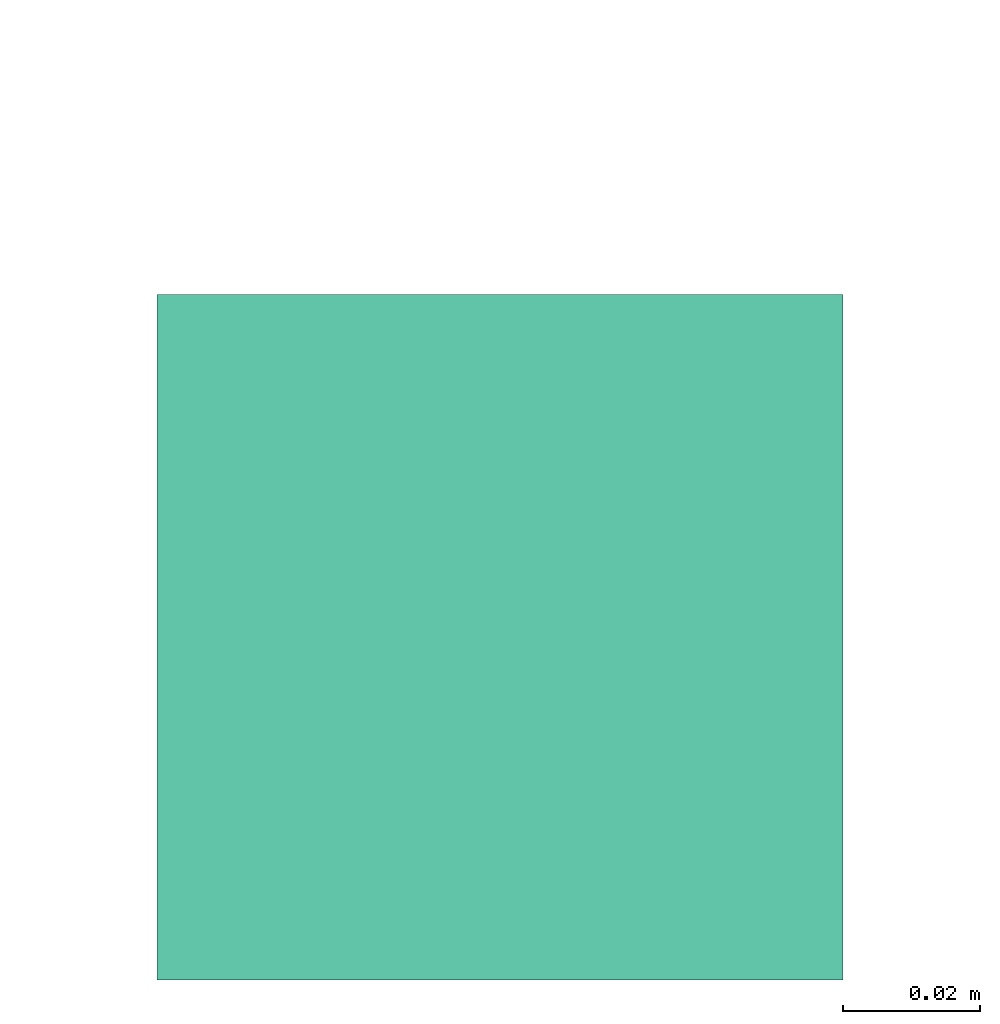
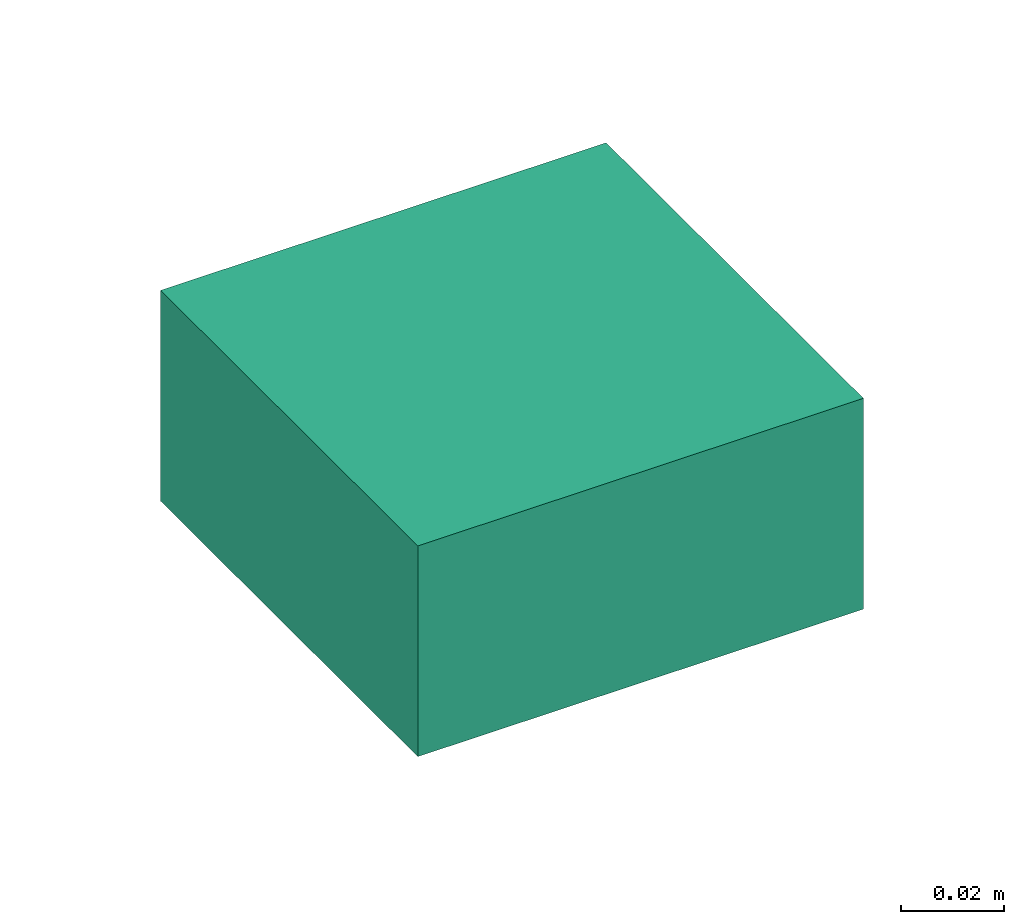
# One storey, part 5 of 14: 1 flow terminal.
"""IFC2X3 building model written with IfcOpenShell, lengths in millimetres."""

import ifcopenshell
import ifcopenshell.guid

model = None  # the IFC model being written
_history = None  # IfcOwnerHistory: only IFC2X3 demands one
_inside = {}  # id of a spatial element -> (the spatial element, [elements in it])
_under = {}  # id of a project, library or spatial element -> (it, [spatial elements below it])
_declared = {}  # id of a project -> (the project, [libraries it declares])
_typed = {}  # id of a type object -> (the type object, [elements of that type])
_made_of = {}  # id of a material, layer set ... -> (it, [elements and type objects made of it])


def new_model(schema):
    """Start an empty IFC model of exactly this schema.

    Asked for "IFC4X3", IfcOpenShell would pick the latest addendum, in which some entities
    have other attributes; the version numbers below select the first issue.
    IFC2X3 requires an IfcOwnerHistory on every rooted entity: one is made here for all.
    """
    global model, _history
    if schema == "IFC4X3":
        model = ifcopenshell.file(schema_version=(4, 3, 0, 0))
    else:
        model = ifcopenshell.file(schema=schema)
    _inside.clear()
    _under.clear()
    _declared.clear()
    _typed.clear()
    _made_of.clear()
    _history = None
    if model.schema == "IFC2X3":
        org = make("IfcOrganization", Name="unknown")
        user = make(
            "IfcPersonAndOrganization",
            ThePerson=make("IfcPerson", FamilyName="unknown"),
            TheOrganization=org,
        )
        app = make(
            "IfcApplication",
            ApplicationDeveloper=org,
            Version="unknown",
            ApplicationFullName="unknown",
            ApplicationIdentifier="unknown",
        )
        _history = make(
            "IfcOwnerHistory",
            OwningUser=user,
            OwningApplication=app,
            ChangeAction="ADDED",
            CreationDate=0,
        )
    return model


def make(cls, **values):
    """One entity of the class cls with the attributes given. An attribute that is None is left unset."""
    return model.create_entity(
        cls, **{name: value for name, value in values.items() if value is not None}
    )


def entity(cls, *values):
    """Any entity or typed value of the class cls, its attributes in the order of the schema. None: left unset."""
    e = model.create_entity(cls)
    for i, value in enumerate(values):
        if value is not None:
            e[i] = value
    return e


def rooted(cls, **values):
    """An entity with a GlobalId (a new one), such as an element, a storey or a relation."""
    return make(cls, GlobalId=ifcopenshell.guid.new(), OwnerHistory=_history, **values)


def si_unit(unit_type, name, prefix=None):
    """IfcSIUnit, for example si_unit("LENGTHUNIT", "METRE", prefix="MILLI")."""
    return make("IfcSIUnit", UnitType=unit_type, Prefix=prefix, Name=name)


def converted_unit(unit_type, name, factor, base, dimensions=None, offset=None):
    """IfcConversionBasedUnit, such as the inch: factor (a typed value) times the base unit."""
    return make(
        "IfcConversionBasedUnit"
        if offset is None
        else "IfcConversionBasedUnitWithOffset",
        ConversionOffset=offset,
        Dimensions=None
        if dimensions is None
        else entity("IfcDimensionalExponents", *dimensions),
        UnitType=unit_type,
        Name=name,
        ConversionFactor=make(
            "IfcMeasureWithUnit", ValueComponent=factor, UnitComponent=base
        ),
    )


def derived_unit(unit_type, elements):
    """IfcDerivedUnit: a product of units, each with its exponent."""
    return make(
        "IfcDerivedUnit",
        Elements=[
            make("IfcDerivedUnitElement", Unit=unit, Exponent=power)
            for unit, power in elements
        ],
        UnitType=unit_type,
    )


def assignment(units):
    """IfcUnitAssignment: the units of a project."""
    return None if units is None else make("IfcUnitAssignment", Units=units)


def point(xyz):
    """IfcCartesianPoint."""
    return None if xyz is None else make("IfcCartesianPoint", Coordinates=xyz)


def direction(xyz):
    """IfcDirection."""
    return None if xyz is None else make("IfcDirection", DirectionRatios=xyz)


def frame(location, z_axis=None, x_axis=None):
    """IfcAxis2Placement3D, a coordinate frame: its origin and axes. An axis left out is left unset."""
    return make(
        "IfcAxis2Placement3D",
        Location=point(location),
        Axis=direction(z_axis),
        RefDirection=direction(x_axis),
    )


def origin_with_axes():
    """The frame at (0, 0, 0) with the z axis (0, 0, 1) and the x axis (1, 0, 0) written out."""
    return frame((0.0, 0.0, 0.0), z_axis=(0.0, 0.0, 1.0), x_axis=(1.0, 0.0, 0.0))


def place(relative_to, where):
    """IfcLocalPlacement: puts the frame where relative to a parent placement (None: the world)."""
    return make(
        "IfcLocalPlacement", PlacementRelTo=relative_to, RelativePlacement=where
    )


def context(
    kind, dimensions, precision=None, world=None, true_north=None, identifier=None
):
    """IfcGeometricRepresentationContext, for example the 3D "Model" context."""
    return make(
        "IfcGeometricRepresentationContext",
        ContextIdentifier=identifier,
        ContextType=kind,
        CoordinateSpaceDimension=dimensions,
        Precision=precision,
        WorldCoordinateSystem=world,
        TrueNorth=true_north,
    )


def subcontext(parent, identifier, kind, view, scale=None):
    """IfcGeometricRepresentationSubContext, for example "Body" below "Model"."""
    return make(
        "IfcGeometricRepresentationSubContext",
        ContextIdentifier=identifier,
        ContextType=kind,
        ParentContext=parent,
        TargetScale=scale,
        TargetView=view,
    )


def project(units=None, contexts=None):
    """IfcProject with its units and contexts."""
    return rooted(
        "IfcProject",
        Name="project",
        RepresentationContexts=contexts,
        UnitsInContext=assignment(units),
    )


def spatial(cls, under=None, at=None, **own):
    """A site, building, storey or space (cls), placed at a placement, below another one or the project."""
    s = rooted(cls, ObjectPlacement=at, **own)
    if under is not None:
        _under.setdefault(under.id(), (under, []))[1].append(s)
    return s


def faces_of(points, faces, orient=None, outer=None):
    """IfcFace entities. A face is a list of loops; a loop is a list of indices into points, from 0.

    orient and outer hold one flag for each loop. By default every Orientation is true, the
    first loop of a face is its IfcFaceOuterBound and the others are IfcFaceBound.
    """
    made = []
    for i, loops in enumerate(faces):
        bounds = []
        for j, loop in enumerate(loops):
            is_outer = j == 0 if outer is None else outer[i][j]
            bounds.append(
                make(
                    "IfcFaceOuterBound" if is_outer else "IfcFaceBound",
                    Bound=make("IfcPolyLoop", Polygon=[points[k] for k in loop]),
                    Orientation=True if orient is None else orient[i][j],
                )
            )
        made.append(make("IfcFace", Bounds=bounds))
    return made


def open_shell(faces, orient=None, outer=None):
    """The faces of one IfcOpenShell. surface_model builds it on its shared points."""
    return ("IfcOpenShell", faces, orient, outer)


def surface_model(cls, points, shells):
    """IfcFaceBasedSurfaceModel or IfcShellBasedSurfaceModel (cls): surfaces that need not close."""
    shared = [point(p) for p in points]
    made = [make(c, CfsFaces=faces_of(shared, fs, o, b)) for c, fs, o, b in shells]
    if cls == "IfcFaceBasedSurfaceModel":
        return make(cls, FbsmFaces=made)
    return make(cls, SbsmBoundary=made)


def shape(context_of_items, identifier, shape_type, items):
    """IfcShapeRepresentation: the items that make up one representation, for example the "Body"."""
    return make(
        "IfcShapeRepresentation",
        ContextOfItems=context_of_items,
        RepresentationIdentifier=identifier,
        RepresentationType=shape_type,
        Items=items,
    )


def source(mapping_origin, context_of_items, identifier, shape_type, items):
    """IfcRepresentationMap: a shape defined once, which mapped items show again and again."""
    return make(
        "IfcRepresentationMap",
        MappingOrigin=mapping_origin,
        MappedRepresentation=shape(context_of_items, identifier, shape_type, items),
    )


def transform(
    local_origin,
    x_axis=None,
    y_axis=None,
    z_axis=None,
    scale=None,
    scale2=None,
    scale3=None,
    uniform=True,
):
    """IfcCartesianTransformationOperator3D, or its non-uniform kind. x_axis, y_axis, z_axis: its Axis1, 2, 3."""
    if uniform:
        return make(
            "IfcCartesianTransformationOperator3D",
            Axis1=direction(x_axis),
            Axis2=direction(y_axis),
            LocalOrigin=point(local_origin),
            Scale=scale,
            Axis3=direction(z_axis),
        )
    return make(
        "IfcCartesianTransformationOperator3DnonUniform",
        Axis1=direction(x_axis),
        Axis2=direction(y_axis),
        LocalOrigin=point(local_origin),
        Scale=scale,
        Axis3=direction(z_axis),
        Scale2=scale2,
        Scale3=scale3,
    )


def mapped(mapping_source, mapping_target):
    """IfcMappedItem: shows the shape of a source again, moved by a transform."""
    return make(
        "IfcMappedItem", MappingSource=mapping_source, MappingTarget=mapping_target
    )


def made_of(thing, what):
    """Note that an element or type object is made of a material, layer set ...; save() writes the relation."""
    if what is not None:
        _made_of.setdefault(what.id(), (what, []))[1].append(thing)
    return thing


def type_object(cls, material=None, **own):
    """A type object (cls), such as IfcWallType, which elements share."""
    return made_of(rooted(cls, **own), material)


def element(
    cls,
    number,
    at=None,
    inside=None,
    cuts=None,
    type_object=None,
    material=None,
    context=None,
    identifier="Body",
    shape_type=None,
    held_by="IfcProductDefinitionShape",
    body=None,
    shapes=None,
    **own,
):
    """One element of the class cls, such as IfcWall. Its Tag is "e" and its number.

    at: its placement. inside: the storey or other place that contains it. cuts: it is an
    opening in that element (IfcRelVoidsElement). A single representation is given by context,
    identifier, shape_type and body (its items); several are given by shapes. held_by: the class
    of the entity that holds the representations. save() writes the other relations.
    """
    e = rooted(cls, Tag="e%d" % number, ObjectPlacement=at, **own)
    if body is not None:
        shapes = [shape(context, identifier, shape_type, body)]
    if shapes is not None:
        e.Representation = make(held_by, Representations=shapes)
    if inside is not None:
        _inside.setdefault(inside.id(), (inside, []))[1].append(e)
    if cuts is not None:
        rooted(
            "IfcRelVoidsElement", RelatingBuildingElement=cuts, RelatedOpeningElement=e
        )
    if type_object is not None:
        _typed.setdefault(type_object.id(), (type_object, []))[1].append(e)
    return made_of(e, material)


def aggregate(whole, parts):
    """IfcRelAggregates: a whole, such as a stair, and the parts it consists of."""
    return rooted("IfcRelAggregates", RelatingObject=whole, RelatedObjects=parts)


def save(model, path):
    """Write the relations noted so far, then the file.

    IfcRelAggregates (storeys below a building ...), IfcRelContainedInSpatialStructure (elements
    in a storey), IfcRelDefinesByType, IfcRelAssociatesMaterial and IfcRelDeclares: one each for
    every whole, place, type object, material and project.
    """
    for whole, parts in _under.values():
        aggregate(whole, parts)
    for where, things in _inside.values():
        rooted(
            "IfcRelContainedInSpatialStructure",
            RelatedElements=things,
            RelatingStructure=where,
        )
    for kind, things in _typed.values():
        rooted("IfcRelDefinesByType", RelatedObjects=things, RelatingType=kind)
    for what, things in _made_of.values():
        rooted("IfcRelAssociatesMaterial", RelatedObjects=things, RelatingMaterial=what)
    for by, libraries in _declared.values():
        rooted("IfcRelDeclares", RelatingContext=by, RelatedDefinitions=libraries)
    model.write(path)


model = new_model("IFC2X3")

# Units and contexts
model_context = context("Model", 3, precision=0.01, world=frame((0.0, 4.29681676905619e-09, 0.0)), true_north=direction((4.01073788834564e-13, 1.0)))
plan_context = context("Plan", 3, precision=0.01, world=frame((0.0, 4.29681676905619e-09, 0.0)), true_north=direction((4.01073788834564e-13, 1.0)))
body_context = subcontext(model_context, "Body", "Model", "MODEL_VIEW")
ifc_project = project(units=[converted_unit("PLANEANGLEUNIT", "DEGREE", entity("IfcPositiveLengthMeasure", 0.0174532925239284), si_unit("PLANEANGLEUNIT", "RADIAN"), dimensions=[0, 0, 0, 0, 0, 0, 0]), si_unit("AREAUNIT", "SQUARE_METRE"), si_unit("LENGTHUNIT", "METRE", prefix="MILLI"), si_unit("MASSUNIT", "GRAM", prefix="KILO"), si_unit("POWERUNIT", "WATT"), si_unit("PRESSUREUNIT", "PASCAL", prefix="KILO"), si_unit("FORCEUNIT", "NEWTON", prefix="KILO"), si_unit("ELECTRICVOLTAGEUNIT", "VOLT"), si_unit("ELECTRICCURRENTUNIT", "AMPERE"), si_unit("THERMODYNAMICTEMPERATUREUNIT", "DEGREE_CELSIUS"), si_unit("TIMEUNIT", "SECOND"), si_unit("VOLUMEUNIT", "CUBIC_METRE"), derived_unit("LINEARVELOCITYUNIT", [(si_unit("LENGTHUNIT", "METRE"), 1), (si_unit("TIMEUNIT", "SECOND"), -1)]), derived_unit("VOLUMETRICFLOWRATEUNIT", [(si_unit("VOLUMEUNIT", "CUBIC_METRE"), 1), (si_unit("TIMEUNIT", "SECOND"), -1)]), derived_unit("THERMALTRANSMITTANCEUNIT", [(si_unit("POWERUNIT", "WATT"), 1), (si_unit("THERMODYNAMICTEMPERATUREUNIT", "KELVIN"), -1), (si_unit("AREAUNIT", "SQUARE_METRE"), -1)]), derived_unit("SOUNDPRESSUREUNIT", [(si_unit("PRESSUREUNIT", "PASCAL"), 1)])], contexts=[model_context, plan_context])

# Site, building, storey
site_placement = place(None, frame((0.0, -4.29681676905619e-09, 0.0), z_axis=(0.0, 0.0, 1.0), x_axis=(1.0, 0.0, 0.0)))
site = spatial("IfcSite", under=ifc_project, at=site_placement, Name="ENGM", CompositionType="ELEMENT")
building_placement = place(site_placement, frame((0.0, 4.29681676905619e-09, 0.0), z_axis=(0.0, 0.0, 1.0), x_axis=(1.0, 0.0, 0.0)))
building = spatial("IfcBuilding", under=site, at=building_placement, Name="TG", CompositionType="ELEMENT")
storey_placement = place(building_placement, frame((0.0, 0.0, 205200.0), z_axis=(0.0, 0.0, 1.0), x_axis=(1.0, 0.0, 0.0)))
storey = spatial("IfcBuildingStorey", under=building, at=storey_placement, Name="Nivå D + 1,2", CompositionType="ELEMENT", Elevation=205200.0)

# Flow terminal
electric_appliance_type = type_object("IfcElectricApplianceType", Name="Other_E-Dummy-EE", PredefinedType="NOTDEFINED")
shared_shape = source(origin_with_axes(), body_context, "Body", "SurfaceModel", [
    surface_model("IfcShellBasedSurfaceModel", [(-50.0, 50.0, 50.0), (-50.0, -50.0, 50.0), (50.0, -50.0, 50.0), (50.0, 50.0, 50.0), (50.0, -50.0, 0.0), (-50.0, -50.0, 0.0), (-50.0, 50.0, 0.0), (50.0, 50.0, 0.0)], [open_shell([[[0, 1, 2]], [[2, 3, 0]], [[4, 5, 6]], [[6, 7, 4]], [[3, 7, 6]], [[6, 0, 3]], [[0, 6, 5]], [[5, 1, 0]], [[1, 5, 4]], [[4, 2, 1]], [[2, 4, 7]], [[7, 3, 2]]])]),
])
flow_terminal_placement = place(storey_placement, frame((337940.0, 459160.27502, 4542.0), z_axis=(0.0, 0.0, 1.0), x_axis=(-1.0, 0.0, 0.0)))
element("IfcFlowTerminal", 1, at=flow_terminal_placement, inside=storey, type_object=electric_appliance_type, Name="Other_E-Dummy-EE", context=body_context, shape_type="MappedRepresentation", body=[
    mapped(shared_shape, transform((0.0, 0.0, 0.0), scale=1.0)),
])

save(model, "model.ifc")
